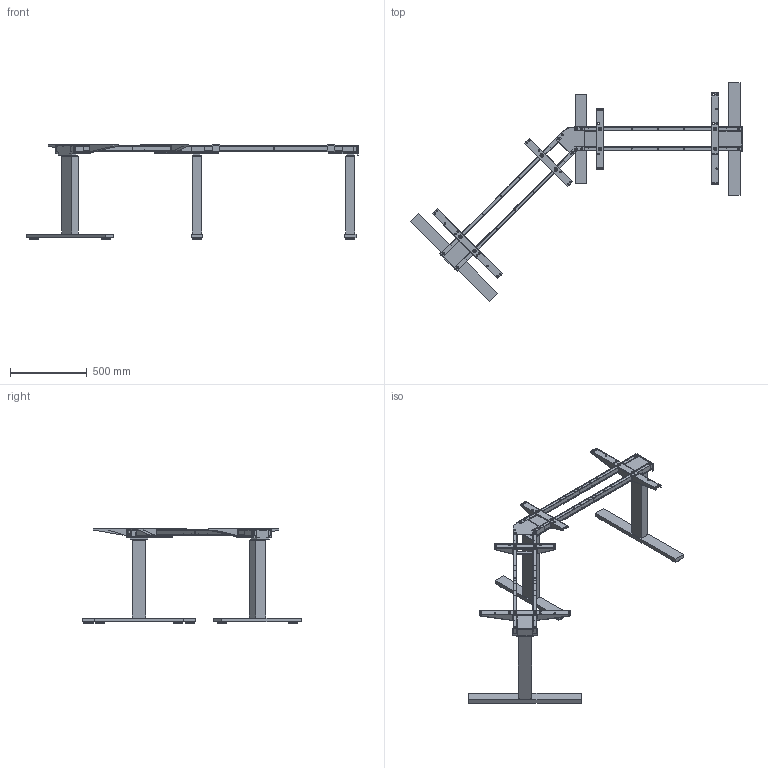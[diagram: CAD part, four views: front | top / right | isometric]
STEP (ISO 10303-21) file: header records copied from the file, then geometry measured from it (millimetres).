
FILE_DESCRIPTION( ( 'STEP AP214' ), '1' );
FILE_NAME( 'D:/Yug/2022/Actiforce_2022/QC/9311393.stp', '2022-03-02T07:33:49', ( '' ), ( '' ), ' ', 'PARTsolutions', ' ' );
FILE_SCHEMA( ( 'AUTOMOTIVE_DESIGN { 1 0 10303 214 1 1 1 1 }' ) );
Length unit declared in the file: millimetre
Products named in the file (10): 9311393_1140_1175_524; _foot_centre_135xl_1140_1175_524; _foot_r_135xl_1140_1175_524; _Column_671_1100_1285_524; _9311397_12; _top_support_sf_570; _crossbar_sf_570; _cover_cap_sf_670; _housing_plate_fix; _top_support_400
Assembly tree (19 placements, depth 2):
  9311393_1140_1175_524
    _foot_centre_135xl_1140_1175_524
    _foot_r_135xl_1140_1175_524  x2
    _Column_671_1100_1285_524  x3
    _9311397_12  x2
    _top_support_sf_570  x2
    _crossbar_sf_570  x4
    _cover_cap_sf_670  x2
    _housing_plate_fix
    _top_support_400  x2
Bounding box: 2169.19 x 1428.05 x 625 mm (x, y, z)
Volume: 17723330.5 mm3; surface area: 3408763.1 mm2
Topology: 19 solids, 19 shells, 755 faces, 1862 edges, 1241 vertices
Faces by surface type: plane 527, cylinder 228
Full cylindrical faces by diameter (mm): 5 x1, 6.5 x24, 6.8 x16, 8.5 x2, 9 x4, 10 x42, 10.5 x32, 12 x12, 12.4 x7, 12.7 x8, 13.46 x16, 17.06 x16, 17.4 x16, 22 x8, 59.84 x6
Entity records: 16832 total; most frequent: DIRECTION 2210, CARTESIAN_POINT 2165, ORIENTED_EDGE 1918, EDGE_CURVE 959, EDGE_LOOP 825, AXIS2_PLACEMENT_3D 771, VERTEX_POINT 726, LINE 668
